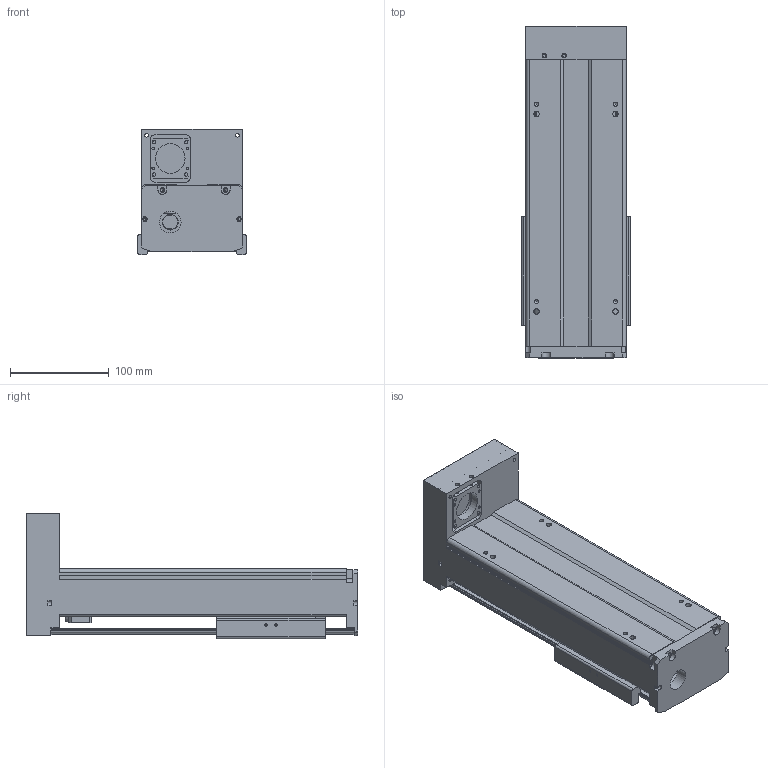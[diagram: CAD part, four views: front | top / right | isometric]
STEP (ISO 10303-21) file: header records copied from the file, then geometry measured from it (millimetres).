
FILE_DESCRIPTION(/* description */ (''),/* implementation_level */ '2;1');
FILE_NAME(/* name */ 'TKA100-FD-100_asm1.stp',/* time_stamp */ '2016-05-16T15:13:19+08:00',/* author */ (''),/* organization */ (''),/* preprocessor_version */ 'ST-DEVELOPER v15',/* originating_system */ 'SIEMENS PLM Software NX 8.5',/* authorisation */ '');
FILE_SCHEMA (('AUTOMOTIVE_DESIGN { 1 0 10303 214 3 1 1 1 }'));
Length unit declared in the file: millimetre
Products named in the file (3): 200-02; 200-01; TKA100-FD-100_asm1
Assembly tree (2 placements, depth 2):
  TKA100-FD-100_asm1
    200-01
    200-02
Bounding box: 110 x 336 x 127 mm (x, y, z)
Volume: 987042.3 mm3; surface area: 345289.8 mm2
Topology: 2 solids, 8 shells, 749 faces, 1942 edges, 1256 vertices
Faces by surface type: plane 287, cylinder 285, cone 113, torus 38, bspline 26
Full cylindrical faces by diameter (mm): 2.5 x6, 2.6 x8, 3.3 x10, 3.4 x8, 3.8 x8, 4.2 x13, 4.3 x4, 4.5 x8, 5 x1, 5.5 x14, 6.6 x4, 8 x5, 9 x4, 10 x6, 11 x4, 12 x7, 15.3 x1, 16 x1, 22 x1, 24 x1, 28 x4, 30 x1, 33 x1
Entity records: 27388 total; most frequent: CARTESIAN_POINT 9885, DIRECTION 3644, ORIENTED_EDGE 3374, EDGE_CURVE 1687, AXIS2_PLACEMENT_3D 1441, VERTEX_POINT 1187, EDGE_LOOP 1042, LINE 762
